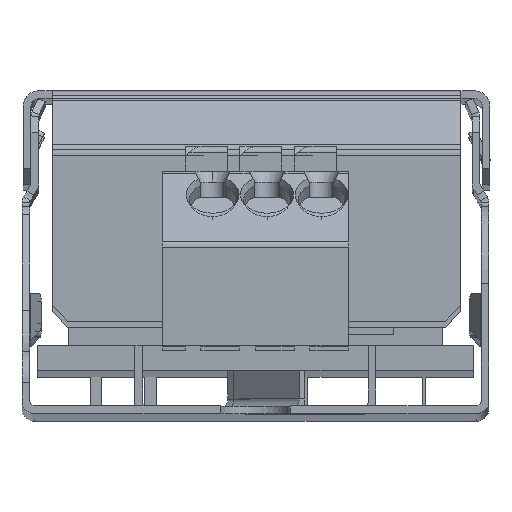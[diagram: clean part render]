
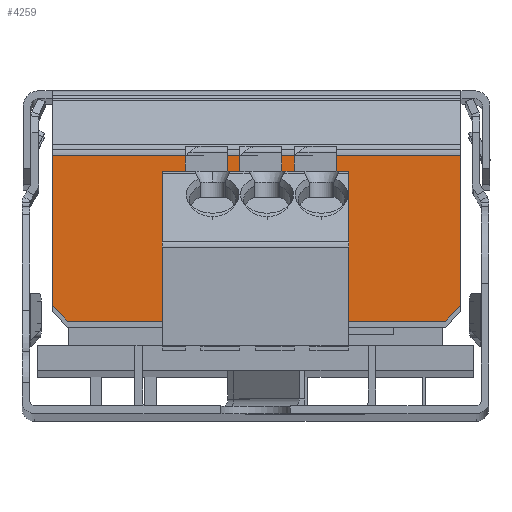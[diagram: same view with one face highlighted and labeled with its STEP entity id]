
A CAD part, top view. The second image highlights one B-rep face of the part: STEP entity #4259.
In plain terms, the highlighted planar face has unit normal (0, 0, 1).
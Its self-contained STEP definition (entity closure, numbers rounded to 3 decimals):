
#1372=DIRECTION('',(0.,1.,0.));
#1373=VECTOR('',#1372,9.65);
#1374=CARTESIAN_POINT('',(116.622,149.242,324.258));
#1375=LINE('',#1374,#1373);
#1439=DIRECTION('',(-0.707,-0.707,0.));
#1440=VECTOR('',#1439,1.414);
#1441=CARTESIAN_POINT('',(116.622,149.242,324.258));
#1442=LINE('',#1441,#1440);
#1443=DIRECTION('',(-1.,0.,0.));
#1444=VECTOR('',#1443,24.271);
#1445=CARTESIAN_POINT('',(115.622,148.242,324.258));
#1446=LINE('',#1445,#1444);
#1447=DIRECTION('',(-0.707,0.707,0.));
#1448=VECTOR('',#1447,1.414);
#1449=CARTESIAN_POINT('',(91.352,148.242,324.258));
#1450=LINE('',#1449,#1448);
#1451=DIRECTION('',(0.,1.,0.));
#1452=VECTOR('',#1451,9.65);
#1453=CARTESIAN_POINT('',(90.352,149.242,324.258));
#1454=LINE('',#1453,#1452);
#1463=DIRECTION('',(-1.,0.,0.));
#1464=VECTOR('',#1463,26.271);
#1465=CARTESIAN_POINT('',(116.622,158.892,324.258));
#1466=LINE('',#1465,#1464);
#3371=CARTESIAN_POINT('',(90.352,158.892,324.258));
#3372=VERTEX_POINT('',#3371);
#3373=CARTESIAN_POINT('',(90.352,149.242,324.258));
#3374=VERTEX_POINT('',#3373);
#3389=CARTESIAN_POINT('',(116.622,149.242,324.258));
#3390=VERTEX_POINT('',#3389);
#3391=CARTESIAN_POINT('',(116.622,158.892,324.258));
#3392=VERTEX_POINT('',#3391);
#3405=CARTESIAN_POINT('',(91.352,148.242,324.258));
#3406=VERTEX_POINT('',#3405);
#3407=CARTESIAN_POINT('',(115.622,148.242,324.258));
#3408=VERTEX_POINT('',#3407);
#4244=CARTESIAN_POINT('',(116.622,148.242,324.258));
#4245=DIRECTION('',(0.,0.,1.));
#4246=DIRECTION('',(0.,1.,0.));
#4247=AXIS2_PLACEMENT_3D('',#4244,#4245,#4246);
#4248=PLANE('',#4247);
#4250=ORIENTED_EDGE('',*,*,#4249,.T.);
#4251=ORIENTED_EDGE('',*,*,#4236,.T.);
#4252=ORIENTED_EDGE('',*,*,#4225,.T.);
#4253=ORIENTED_EDGE('',*,*,#4116,.T.);
#4255=ORIENTED_EDGE('',*,*,#4254,.F.);
#4256=ORIENTED_EDGE('',*,*,#4181,.F.);
#4257=EDGE_LOOP('',(#4250,#4251,#4252,#4253,#4255,#4256));
#4258=FACE_OUTER_BOUND('',#4257,.F.);
#4259=ADVANCED_FACE('',(#4258),#4248,.T.);
#4116=EDGE_CURVE('',#3374,#3372,#1454,.T.);
#4181=EDGE_CURVE('',#3390,#3392,#1375,.T.);
#4225=EDGE_CURVE('',#3406,#3374,#1450,.T.);
#4236=EDGE_CURVE('',#3408,#3406,#1446,.T.);
#4249=EDGE_CURVE('',#3390,#3408,#1442,.T.);
#4254=EDGE_CURVE('',#3392,#3372,#1466,.T.);
